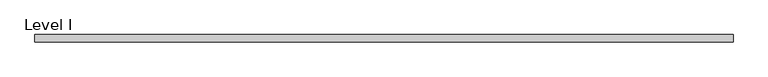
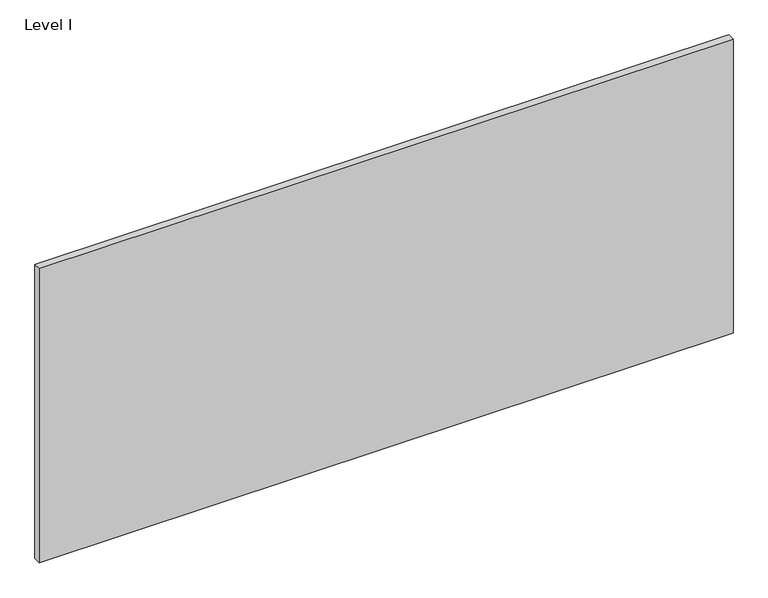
"""IFC4 building model written with IfcOpenShell, lengths in millimetres: proxy geometry, Panel-Fascia-Teknion-Altos-Standard : Level I."""

from ifc_helpers import new_model, si_unit, frame, origin, place, context, project, spatial, polyline, outline, extrude, source, transform, mapped, element, save


def level_i_a4eb09b2(model_context):
    return source(origin(), model_context, "Body", "SweptSolid", [
        extrude(outline(polyline([(904.2300781, -9.525), (-904.2300781, -9.525), (-904.2300781, 9.525), (904.2300781, 9.525), (904.2300781, -9.525)])), frame((0.0, 0.0, 3.175), z_axis=(0.0, 0.0, 1.0), x_axis=(1.0, 0.0, 0.0)), (0.0, 0.0, 1.0), 810.768),
    ])


if __name__ == "__main__":
    model = new_model("IFC4")
    model_context = context("Model", 3, world=origin())
    ifc_project = project(units=[si_unit("LENGTHUNIT", "METRE", prefix="MILLI")], contexts=[model_context])
    site = spatial("IfcSite", under=ifc_project)
    building = spatial("IfcBuilding", under=site)
    placement = place(None, origin())
    level_i_shape = level_i_a4eb09b2(model_context)
    element("IfcBuildingElementProxy", 1, Name="Panel-Fascia-Teknion-Altos-Standard : Level I", ObjectType="Panel-Fascia-Teknion-Altos-Standard : Level I", at=placement, inside=building, context=model_context, shape_type="MappedRepresentation", body=[
        mapped(level_i_shape, transform((0.0, 0.0, 0.0), x_axis=(1.0, 0.0, 0.0), y_axis=(0.0, 1.0, 0.0), z_axis=(0.0, 0.0, 1.0))),
    ])
    save(model, "model.ifc")
